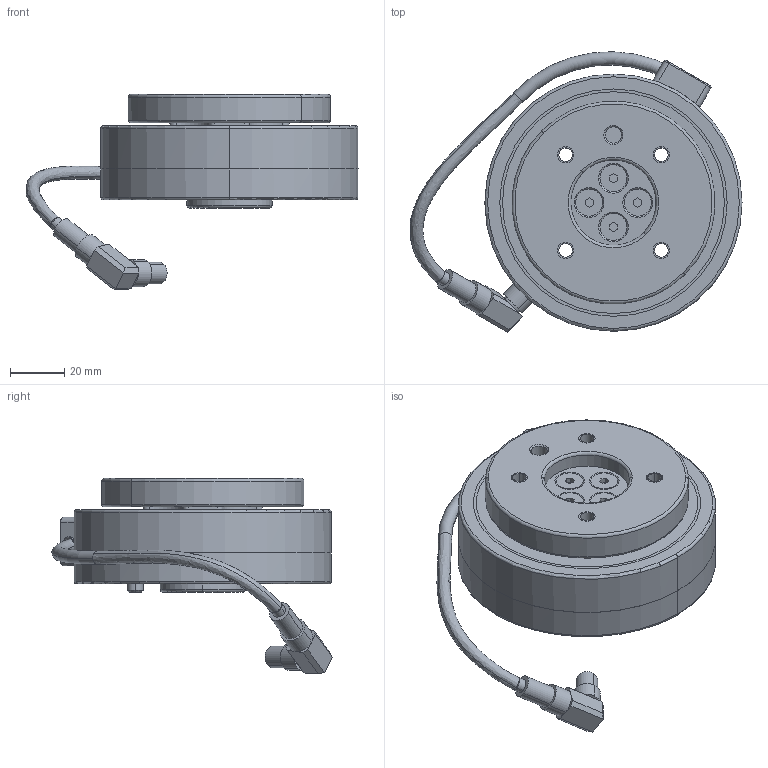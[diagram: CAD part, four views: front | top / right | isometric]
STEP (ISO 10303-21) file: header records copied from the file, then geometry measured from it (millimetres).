
FILE_DESCRIPTION((''),'2;1');
FILE_NAME('3635C4A-00_ASM_ASM','2020-10-16T08:41:44',('Administrator'),(''),'CREO PARAMETRIC BY PTC INC, 2016390','CREO PARAMETRIC BY PTC INC, 2016390','');
FILE_SCHEMA(('CONFIG_CONTROL_DESIGN'));
Length unit declared in the file: millimetre
Products named in the file (31): 3635C4A-15_176; 3635C4A-10_ASM_43_ASM; 3635C4A-21_52; M6X10_32; 5000385_32; 3635C4A-22_ASM_27_ASM; 3635C4A-23_50; 5000202_22; 5000151_66; 3635C4A-FILLER1_11; 3635C4A-FILLER2_7; 3635C4A-25_60; 35545-40_13; 5000119_66; 5000406_16; 3635C2A-CIRCUIT_26; 3635C4A-CABLE_50; 3635C4A-35_25; 3635C2A-FILLER3_5; 3635C2A-FILLER4_3; 3635C2A-FILLER5_5; 3635C4A-O-RING_8; 5000635_66; 3635C2A-FILLER6_3; 3635C2A-LED_3MM_6; 3635C4A-01_ASM_155_ASM; 3635C2A-31_33; 3635C2A-30_ASM_11_ASM; MFHCS_M5X14_22; 3635C4A-00_ASM_38_ASM; 3635C4A-00_ASM_ASM
Assembly tree (57 placements, depth 5):
  3635C4A-00_ASM_ASM
    3635C4A-00_ASM_38_ASM
      3635C4A-01_ASM_155_ASM
        3635C4A-10_ASM_43_ASM
          3635C4A-15_176
        3635C4A-22_ASM_27_ASM
          3635C4A-21_52
          M6X10_32
          5000385_32
        3635C4A-23_50
        5000202_22  x4
        5000151_66  x4
        3635C4A-FILLER1_11
        3635C4A-FILLER2_7
        3635C4A-25_60
        35545-40_13
        5000119_66  x2
        5000406_16
        3635C2A-CIRCUIT_26
        3635C4A-CABLE_50
        3635C4A-35_25  x4
        3635C2A-FILLER3_5  x4
        3635C2A-FILLER4_3  x4
        3635C2A-FILLER5_5  x4
        3635C4A-O-RING_8
        5000635_66  x4
        3635C2A-FILLER6_3  x2
        3635C2A-LED_3MM_6
      3635C2A-30_ASM_11_ASM
        3635C2A-31_33
        5000385_32
      MFHCS_M5X14_22  x4
Bounding box: 122.67 x 103.59 x 72.1 mm (x, y, z)
Volume: 173309.1 mm3; surface area: 104314.3 mm2
Topology: 52 solids, 94 shells, 1255 faces, 3243 edges, 2155 vertices
Faces by surface type: cylinder 600, plane 427, cone 172, torus 50, sphere 4, bspline 2
Entity records: 31010 total; most frequent: CARTESIAN_POINT 6381, DIRECTION 5676, ORIENTED_EDGE 4628, EDGE_CURVE 2373, AXIS2_PLACEMENT_3D 2338, VERTEX_POINT 1613, CIRCLE 1291, EDGE_LOOP 1070
